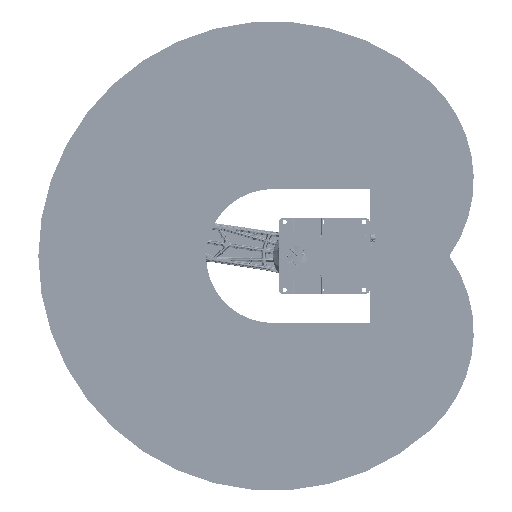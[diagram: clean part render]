
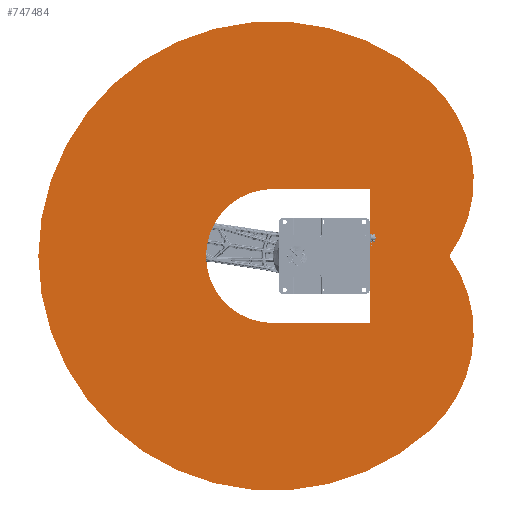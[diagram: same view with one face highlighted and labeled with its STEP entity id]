
A CAD part, front view. The second image highlights one B-rep face of the part: STEP entity #747484.
In plain terms, the highlighted planar face has unit normal (0, -1, 0) as drawn and (0, 0, 1) by its records, which use the part's own axes.
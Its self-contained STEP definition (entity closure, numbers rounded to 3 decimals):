
#3484 = EDGE_LOOP ( 'NONE', ( #861520, #733727, #78309, #261976 ) ) ;
#10799 = EDGE_CURVE ( 'NONE', #323113, #139456, #407438, .T. ) ;
#13143 = DIRECTION ( 'NONE',  ( -1., 0., 0. ) ) ;
#19836 = EDGE_CURVE ( 'NONE', #628707, #740491, #117244, .T. ) ;
#35373 = DIRECTION ( 'NONE',  ( 1., 0., 0. ) ) ;
#44949 = AXIS2_PLACEMENT_3D ( 'NONE', #166808, #671224, #239250 ) ;
#52677 = AXIS2_PLACEMENT_3D ( 'NONE', #521654, #89862, #594152 ) ;
#54382 = ORIENTED_EDGE ( 'NONE', *, *, #19836, .T. ) ;
#78309 = ORIENTED_EDGE ( 'NONE', *, *, #704535, .T. ) ;
#89862 = DIRECTION ( 'NONE',  ( 0., 0., 1. ) ) ;
#109107 = CARTESIAN_POINT ( 'NONE',  ( 0., 0., 200. ) ) ;
#115159 = VERTEX_POINT ( 'NONE', #648174 ) ;
#117244 = LINE ( 'NONE', #774701, #455570 ) ;
#128278 = DIRECTION ( 'NONE',  ( 1., 0., 0. ) ) ;
#133227 = EDGE_CURVE ( 'NONE', #628707, #820828, #371581, .T. ) ;
#133701 = VERTEX_POINT ( 'NONE', #762614 ) ;
#139456 = VERTEX_POINT ( 'NONE', #629310 ) ;
#158830 = EDGE_CURVE ( 'NONE', #693763, #115159, #652703, .T. ) ;
#165020 = VECTOR ( 'NONE', #570696, 1000. ) ;
#166808 = CARTESIAN_POINT ( 'NONE',  ( 0., 0., 200. ) ) ;
#169420 = CARTESIAN_POINT ( 'NONE',  ( 535.304, 594.516, 200. ) ) ;
#181517 = DIRECTION ( 'NONE',  ( 1., 0., 0. ) ) ;
#189608 = CIRCLE ( 'NONE', #704870, 450. ) ;
#239250 = DIRECTION ( 'NONE',  ( 1., 0., 0. ) ) ;
#261976 = ORIENTED_EDGE ( 'NONE', *, *, #10799, .T. ) ;
#263324 = CIRCLE ( 'NONE', #44949, 800. ) ;
#273061 = VERTEX_POINT ( 'NONE', #412616 ) ;
#278017 = ORIENTED_EDGE ( 'NONE', *, *, #852616, .F. ) ;
#280268 = CARTESIAN_POINT ( 'NONE',  ( 234.196, -260.101, 200. ) ) ;
#299666 = PLANE ( 'NONE',  #388144 ) ;
#311284 = DIRECTION ( 'NONE',  ( 0., 0., -1. ) ) ;
#323113 = VERTEX_POINT ( 'NONE', #823056 ) ;
#345758 = CARTESIAN_POINT ( 'NONE',  ( 330., 228.478, 200. ) ) ;
#352827 = DIRECTION ( 'NONE',  ( 1., 0., 0. ) ) ;
#371581 = CIRCLE ( 'NONE', #583545, 228.478 ) ;
#388144 = AXIS2_PLACEMENT_3D ( 'NONE', #441699, #444810, #13143 ) ;
#392282 = AXIS2_PLACEMENT_3D ( 'NONE', #280268, #784898, #352827 ) ;
#407438 = CIRCLE ( 'NONE', #392282, 450. ) ;
#412616 = CARTESIAN_POINT ( 'NONE',  ( 330., -228.478, 200. ) ) ;
#441699 = CARTESIAN_POINT ( 'NONE',  ( 234.196, 0., 200. ) ) ;
#444810 = DIRECTION ( 'NONE',  ( 0., 0., -1. ) ) ;
#455570 = VECTOR ( 'NONE', #128278, 1000. ) ;
#467059 = DIRECTION ( 'NONE',  ( 0., 0., 1. ) ) ;
#483376 = DIRECTION ( 'NONE',  ( -1., 0., 0. ) ) ;
#492021 = CARTESIAN_POINT ( 'NONE',  ( 330., 228.478, 200. ) ) ;
#495329 = FACE_BOUND ( 'NONE', #831790, .T. ) ;
#521654 = CARTESIAN_POINT ( 'NONE',  ( 0., 0., 200. ) ) ;
#555816 = CARTESIAN_POINT ( 'NONE',  ( 330., -228.478, 200. ) ) ;
#570696 = DIRECTION ( 'NONE',  ( 0., -1., 0. ) ) ;
#583545 = AXIS2_PLACEMENT_3D ( 'NONE', #898831, #467059, #35373 ) ;
#592450 = EDGE_CURVE ( 'NONE', #273061, #133701, #727933, .T. ) ;
#594152 = DIRECTION ( 'NONE',  ( 1., 0., 0. ) ) ;
#597525 = ORIENTED_EDGE ( 'NONE', *, *, #133227, .F. ) ;
#613457 = DIRECTION ( 'NONE',  ( 0., 0., 1. ) ) ;
#628707 = VERTEX_POINT ( 'NONE', #852882 ) ;
#629310 = CARTESIAN_POINT ( 'NONE',  ( 601.412, 0., 200. ) ) ;
#648174 = CARTESIAN_POINT ( 'NONE',  ( -800., 0., 200. ) ) ;
#652703 = CIRCLE ( 'NONE', #52677, 800. ) ;
#664609 = FACE_OUTER_BOUND ( 'NONE', #3484, .T. ) ;
#671224 = DIRECTION ( 'NONE',  ( 0., 0., 1. ) ) ;
#691880 = ORIENTED_EDGE ( 'NONE', *, *, #592450, .T. ) ;
#693763 = VERTEX_POINT ( 'NONE', #169420 ) ;
#704535 = EDGE_CURVE ( 'NONE', #115159, #323113, #263324, .T. ) ;
#704870 = AXIS2_PLACEMENT_3D ( 'NONE', #743434, #311284, #815790 ) ;
#727933 = LINE ( 'NONE', #555816, #896951 ) ;
#733727 = ORIENTED_EDGE ( 'NONE', *, *, #158830, .T. ) ;
#740466 = LINE ( 'NONE', #492021, #165020 ) ;
#740491 = VERTEX_POINT ( 'NONE', #345758 ) ;
#743434 = CARTESIAN_POINT ( 'NONE',  ( 234.196, 260.101, 200. ) ) ;
#747484 = ADVANCED_FACE ( 'NONE', ( #664609, #495329 ), #299666, .F. ) ;
#762614 = CARTESIAN_POINT ( 'NONE',  ( 0., -228.478, 200. ) ) ;
#770010 = EDGE_CURVE ( 'NONE', #693763, #139456, #189608, .T. ) ;
#774701 = CARTESIAN_POINT ( 'NONE',  ( 0., 228.478, 200. ) ) ;
#783116 = ORIENTED_EDGE ( 'NONE', *, *, #835603, .T. ) ;
#784898 = DIRECTION ( 'NONE',  ( 0., 0., 1. ) ) ;
#791106 = CARTESIAN_POINT ( 'NONE',  ( -228.478, 0., 200. ) ) ;
#815790 = DIRECTION ( 'NONE',  ( -1., 0., 0. ) ) ;
#820828 = VERTEX_POINT ( 'NONE', #791106 ) ;
#823056 = CARTESIAN_POINT ( 'NONE',  ( 535.304, -594.516, 200. ) ) ;
#830754 = AXIS2_PLACEMENT_3D ( 'NONE', #109107, #613457, #181517 ) ;
#831790 = EDGE_LOOP ( 'NONE', ( #597525, #54382, #783116, #691880, #278017 ) ) ;
#835603 = EDGE_CURVE ( 'NONE', #740491, #273061, #740466, .T. ) ;
#852616 = EDGE_CURVE ( 'NONE', #820828, #133701, #868411, .T. ) ;
#852882 = CARTESIAN_POINT ( 'NONE',  ( 0., 228.478, 200. ) ) ;
#861520 = ORIENTED_EDGE ( 'NONE', *, *, #770010, .F. ) ;
#868411 = CIRCLE ( 'NONE', #830754, 228.478 ) ;
#896951 = VECTOR ( 'NONE', #483376, 1000. ) ;
#898831 = CARTESIAN_POINT ( 'NONE',  ( 0., 0., 200. ) ) ;
